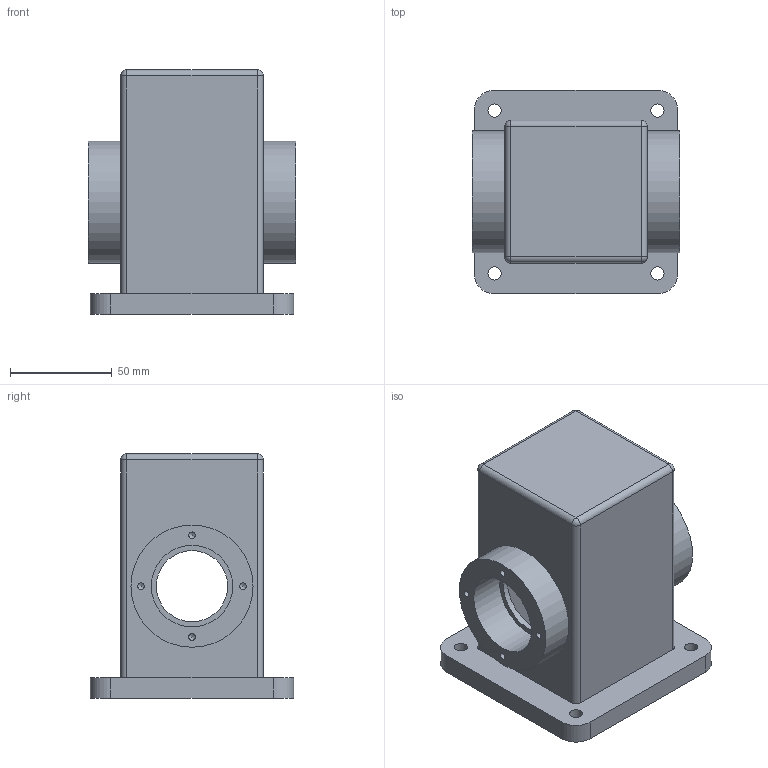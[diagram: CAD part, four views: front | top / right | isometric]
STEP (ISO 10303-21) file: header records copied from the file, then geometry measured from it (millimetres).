
FILE_DESCRIPTION(/* description */ (''),/* implementation_level */ '2;1');
FILE_NAME(/* name */ 'C:\Users\kh\Desktop\381209E1016배윤정\Part1.stp',/* time_stamp */ '2018-12-08T12:03:02+09:00',/* author */ ('kh'),/* organization */ (''),/* preprocessor_version */ 'ST-DEVELOPER v15.2',/* originating_system */ 'Autodesk Inventor 2014',/* authorisation */ '');
FILE_SCHEMA (('AUTOMOTIVE_DESIGN { 1 0 10303 214 3 1 1 }'));
Length unit declared in the file: millimetre
Products named in the file (1): Part1
Bounding box: 102 x 100 x 120 mm (x, y, z)
Volume: 278358.2 mm3; surface area: 88513.4 mm2
Topology: 1 solids, 1 shells, 62 faces, 146 edges, 92 vertices
Faces by surface type: cylinder 30, plane 20, cone 8, sphere 4
Full cylindrical faces by diameter (mm): 3.242 x8, 6.5 x4, 35 x2, 40 x2, 60 x2
Entity records: 1589 total; most frequent: DIRECTION 294, CARTESIAN_POINT 251, ORIENTED_EDGE 216, AXIS2_PLACEMENT_3D 123, EDGE_CURVE 108, EDGE_LOOP 106, VERTEX_POINT 80, ADVANCED_FACE 62
